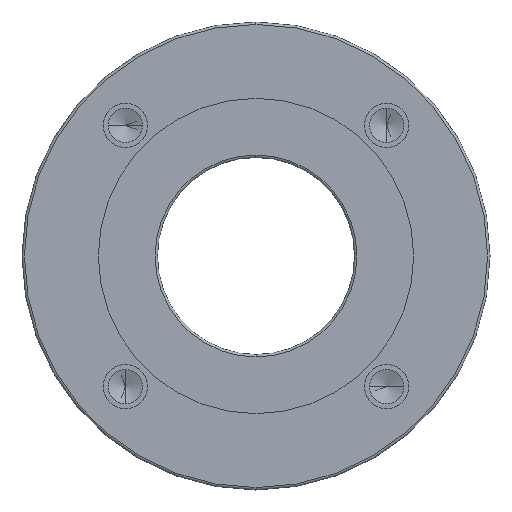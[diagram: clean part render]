
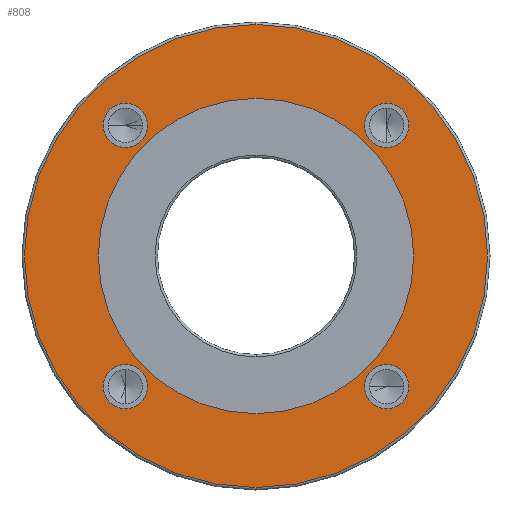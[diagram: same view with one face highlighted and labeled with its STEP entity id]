
A CAD part, left-side view. The second image highlights one B-rep face of the part: STEP entity #808.
In plain terms, the highlighted planar face has unit normal (-1, 0, 0).
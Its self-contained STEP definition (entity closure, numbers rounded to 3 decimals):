
#362 = VERTEX_POINT ( 'NONE', #2042 ) ;
#367 = VERTEX_POINT ( 'NONE', #2025 ) ;
#381 = EDGE_CURVE ( 'NONE', #362, #367, #1958, .T. ) ;
#430 = EDGE_CURVE ( 'NONE', #448, #439, #1660, .T. ) ;
#439 = VERTEX_POINT ( 'NONE', #1679 ) ;
#448 = VERTEX_POINT ( 'NONE', #1654 ) ;
#460 = VERTEX_POINT ( 'NONE', #1714 ) ;
#504 = VERTEX_POINT ( 'NONE', #892 ) ;
#557 = EDGE_CURVE ( 'NONE', #504, #460, #994, .T. ) ;
#571 = EDGE_CURVE ( 'NONE', #572, #587, #1072, .T. ) ;
#572 = VERTEX_POINT ( 'NONE', #1047 ) ;
#587 = VERTEX_POINT ( 'NONE', #1102 ) ;
#654 = ORIENTED_EDGE ( 'NONE', *, *, #655, .F. ) ;
#655 = EDGE_CURVE ( 'NONE', #803, #794, #1038, .T. ) ;
#656 = ORIENTED_EDGE ( 'NONE', *, *, #430, .F. ) ;
#657 = EDGE_CURVE ( 'NONE', #439, #448, #1034, .T. ) ;
#658 = ORIENTED_EDGE ( 'NONE', *, *, #657, .F. ) ;
#663 = EDGE_CURVE ( 'NONE', #678, #672, #1137, .T. ) ;
#664 = ORIENTED_EDGE ( 'NONE', *, *, #806, .F. ) ;
#665 = EDGE_LOOP ( 'NONE', ( #658, #656 ) ) ;
#666 = EDGE_LOOP ( 'NONE', ( #667, #668 ) ) ;
#667 = ORIENTED_EDGE ( 'NONE', *, *, #663, .F. ) ;
#668 = ORIENTED_EDGE ( 'NONE', *, *, #679, .F. ) ;
#671 = ORIENTED_EDGE ( 'NONE', *, *, #571, .T. ) ;
#672 = VERTEX_POINT ( 'NONE', #1235 ) ;
#678 = VERTEX_POINT ( 'NONE', #1285 ) ;
#679 = EDGE_CURVE ( 'NONE', #672, #678, #1295, .T. ) ;
#790 = EDGE_LOOP ( 'NONE', ( #862, #671 ) ) ;
#794 = VERTEX_POINT ( 'NONE', #1426 ) ;
#803 = VERTEX_POINT ( 'NONE', #1476 ) ;
#806 = EDGE_CURVE ( 'NONE', #794, #803, #1453, .T. ) ;
#808 = ADVANCED_FACE ( 'NONE', ( #1471, #1504, #1486, #1494, #1493, #1492 ), #1469, .F. ) ;
#809 = EDGE_CURVE ( 'NONE', #460, #504, #1482, .T. ) ;
#810 = EDGE_LOOP ( 'NONE', ( #818, #861 ) ) ;
#811 = EDGE_CURVE ( 'NONE', #587, #572, #1484, .T. ) ;
#813 = EDGE_LOOP ( 'NONE', ( #814, #816 ) ) ;
#814 = ORIENTED_EDGE ( 'NONE', *, *, #809, .F. ) ;
#815 = EDGE_LOOP ( 'NONE', ( #664, #654 ) ) ;
#816 = ORIENTED_EDGE ( 'NONE', *, *, #557, .F. ) ;
#817 = EDGE_CURVE ( 'NONE', #367, #362, #1483, .T. ) ;
#818 = ORIENTED_EDGE ( 'NONE', *, *, #817, .F. ) ;
#861 = ORIENTED_EDGE ( 'NONE', *, *, #381, .F. ) ;
#862 = ORIENTED_EDGE ( 'NONE', *, *, #811, .T. ) ;
#892 = CARTESIAN_POINT ( 'NONE',  ( -32., -53.033, 62.033 ) ) ;
#993 = AXIS2_PLACEMENT_3D ( 'NONE', #1002, #999, #1009 ) ;
#994 = CIRCLE ( 'NONE', #993, 9. ) ;
#999 = DIRECTION ( 'NONE',  ( -1., 0., 0. ) ) ;
#1002 = CARTESIAN_POINT ( 'NONE',  ( -32., -53.033, 53.033 ) ) ;
#1009 = DIRECTION ( 'NONE',  ( 0., 0., -1. ) ) ;
#1034 = CIRCLE ( 'NONE', #1046, 9. ) ;
#1037 = AXIS2_PLACEMENT_3D ( 'NONE', #1040, #1051, #1052 ) ;
#1038 = CIRCLE ( 'NONE', #1037, 64. ) ;
#1040 = CARTESIAN_POINT ( 'NONE',  ( -32., 0., 0. ) ) ;
#1045 = CARTESIAN_POINT ( 'NONE',  ( -32., 53.033, 53.033 ) ) ;
#1046 = AXIS2_PLACEMENT_3D ( 'NONE', #1045, #1054, #1055 ) ;
#1047 = CARTESIAN_POINT ( 'NONE',  ( -32., 0., 94. ) ) ;
#1051 = DIRECTION ( 'NONE',  ( -1., 0., 0. ) ) ;
#1052 = DIRECTION ( 'NONE',  ( 0., 0., 1. ) ) ;
#1054 = DIRECTION ( 'NONE',  ( -1., 0., 0. ) ) ;
#1055 = DIRECTION ( 'NONE',  ( 0., 0., -1. ) ) ;
#1068 = DIRECTION ( 'NONE',  ( 0., 0., -1. ) ) ;
#1069 = DIRECTION ( 'NONE',  ( -1., 0., 0. ) ) ;
#1070 = CARTESIAN_POINT ( 'NONE',  ( -32., 0., 0. ) ) ;
#1071 = AXIS2_PLACEMENT_3D ( 'NONE', #1070, #1069, #1068 ) ;
#1072 = CIRCLE ( 'NONE', #1071, 94. ) ;
#1102 = CARTESIAN_POINT ( 'NONE',  ( -32., 0., -94. ) ) ;
#1118 = CARTESIAN_POINT ( 'NONE',  ( -32., 53.033, -53.033 ) ) ;
#1136 = AXIS2_PLACEMENT_3D ( 'NONE', #1140, #1139, #1259 ) ;
#1137 = CIRCLE ( 'NONE', #1136, 9. ) ;
#1138 = DIRECTION ( 'NONE',  ( -1., 0., 0. ) ) ;
#1139 = DIRECTION ( 'NONE',  ( -1., 0., 0. ) ) ;
#1140 = CARTESIAN_POINT ( 'NONE',  ( -32., -53.033, -53.033 ) ) ;
#1235 = CARTESIAN_POINT ( 'NONE',  ( -32., -62.033, -53.033 ) ) ;
#1239 = CARTESIAN_POINT ( 'NONE',  ( -32., -53.033, -53.033 ) ) ;
#1259 = DIRECTION ( 'NONE',  ( 0., 0., -1. ) ) ;
#1285 = CARTESIAN_POINT ( 'NONE',  ( -32., -44.033, -53.033 ) ) ;
#1293 = AXIS2_PLACEMENT_3D ( 'NONE', #1239, #1300, #1299 ) ;
#1295 = CIRCLE ( 'NONE', #1293, 9. ) ;
#1299 = DIRECTION ( 'NONE',  ( 0., 0., -1. ) ) ;
#1300 = DIRECTION ( 'NONE',  ( -1., 0., 0. ) ) ;
#1314 = DIRECTION ( 'NONE',  ( 0., 0., -1. ) ) ;
#1426 = CARTESIAN_POINT ( 'NONE',  ( -32., 0., 64. ) ) ;
#1453 = CIRCLE ( 'NONE', #1468, 64. ) ;
#1455 = AXIS2_PLACEMENT_3D ( 'NONE', #1118, #1138, #1314 ) ;
#1457 = DIRECTION ( 'NONE',  ( 0., 0., -1. ) ) ;
#1458 = DIRECTION ( 'NONE',  ( -1., 0., 0. ) ) ;
#1459 = CARTESIAN_POINT ( 'NONE',  ( -32., 0., 0. ) ) ;
#1462 = AXIS2_PLACEMENT_3D ( 'NONE', #1481, #1480, #1479 ) ;
#1463 = DIRECTION ( 'NONE',  ( 0., 0., -1. ) ) ;
#1468 = AXIS2_PLACEMENT_3D ( 'NONE', #1491, #1490, #1489 ) ;
#1469 = PLANE ( 'NONE',  #1487 ) ;
#1471 = FACE_OUTER_BOUND ( 'NONE', #790, .T. ) ;
#1476 = CARTESIAN_POINT ( 'NONE',  ( -32., 0., -64. ) ) ;
#1479 = DIRECTION ( 'NONE',  ( 0., 0., -1. ) ) ;
#1480 = DIRECTION ( 'NONE',  ( -1., 0., 0. ) ) ;
#1481 = CARTESIAN_POINT ( 'NONE',  ( -32., -53.033, 53.033 ) ) ;
#1482 = CIRCLE ( 'NONE', #1462, 9. ) ;
#1483 = CIRCLE ( 'NONE', #1455, 9. ) ;
#1484 = CIRCLE ( 'NONE', #1488, 94. ) ;
#1486 = FACE_BOUND ( 'NONE', #810, .T. ) ;
#1487 = AXIS2_PLACEMENT_3D ( 'NONE', #1505, #1495, #1463 ) ;
#1488 = AXIS2_PLACEMENT_3D ( 'NONE', #1459, #1458, #1457 ) ;
#1489 = DIRECTION ( 'NONE',  ( 0., 0., 1. ) ) ;
#1490 = DIRECTION ( 'NONE',  ( -1., 0., 0. ) ) ;
#1491 = CARTESIAN_POINT ( 'NONE',  ( -32., 0., 0. ) ) ;
#1492 = FACE_BOUND ( 'NONE', #665, .T. ) ;
#1493 = FACE_BOUND ( 'NONE', #666, .T. ) ;
#1494 = FACE_BOUND ( 'NONE', #815, .T. ) ;
#1495 = DIRECTION ( 'NONE',  ( 1., 0., 0. ) ) ;
#1504 = FACE_BOUND ( 'NONE', #813, .T. ) ;
#1505 = CARTESIAN_POINT ( 'NONE',  ( -32., 95., 0. ) ) ;
#1639 = CARTESIAN_POINT ( 'NONE',  ( -32., 53.033, 53.033 ) ) ;
#1643 = AXIS2_PLACEMENT_3D ( 'NONE', #1639, #1658, #1657 ) ;
#1654 = CARTESIAN_POINT ( 'NONE',  ( -32., 62.033, 53.033 ) ) ;
#1657 = DIRECTION ( 'NONE',  ( 0., 0., -1. ) ) ;
#1658 = DIRECTION ( 'NONE',  ( -1., 0., 0. ) ) ;
#1660 = CIRCLE ( 'NONE', #1643, 9. ) ;
#1679 = CARTESIAN_POINT ( 'NONE',  ( -32., 44.033, 53.033 ) ) ;
#1714 = CARTESIAN_POINT ( 'NONE',  ( -32., -53.033, 44.033 ) ) ;
#1859 = CARTESIAN_POINT ( 'NONE',  ( -32., 53.033, -53.033 ) ) ;
#1957 = AXIS2_PLACEMENT_3D ( 'NONE', #1859, #1973, #1974 ) ;
#1958 = CIRCLE ( 'NONE', #1957, 9. ) ;
#1973 = DIRECTION ( 'NONE',  ( -1., 0., 0. ) ) ;
#1974 = DIRECTION ( 'NONE',  ( 0., 0., -1. ) ) ;
#2025 = CARTESIAN_POINT ( 'NONE',  ( -32., 53.033, -44.033 ) ) ;
#2042 = CARTESIAN_POINT ( 'NONE',  ( -32., 53.033, -62.033 ) ) ;
